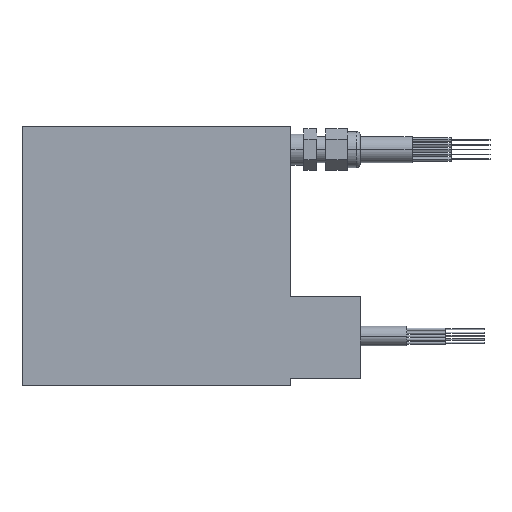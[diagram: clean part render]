
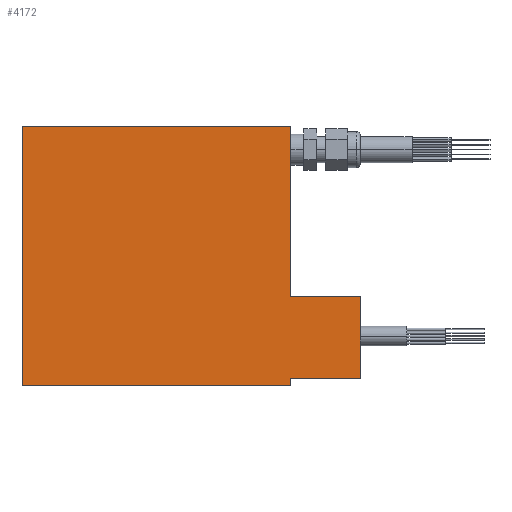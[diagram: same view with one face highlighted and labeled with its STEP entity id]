
A CAD part, front view. The second image highlights one B-rep face of the part: STEP entity #4172.
In plain terms, the highlighted planar face has unit normal (0, -1, 0).
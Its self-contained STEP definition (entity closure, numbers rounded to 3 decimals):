
#30=DIRECTION('',(0.,0.,-1.));
#31=VECTOR('',#30,100.);
#32=CARTESIAN_POINT('',(-51.75,0.,50.));
#33=LINE('',#32,#31);
#34=DIRECTION('',(1.,0.,0.));
#35=VECTOR('',#34,103.5);
#36=CARTESIAN_POINT('',(-51.75,0.,-50.));
#37=LINE('',#36,#35);
#38=DIRECTION('',(1.,0.,0.));
#39=VECTOR('',#38,26.8);
#40=CARTESIAN_POINT('',(51.75,0.,-15.61));
#41=LINE('',#40,#39);
#42=DIRECTION('',(1.,0.,0.));
#43=VECTOR('',#42,103.5);
#44=CARTESIAN_POINT('',(-51.75,0.,50.));
#45=LINE('',#44,#43);
#66=DIRECTION('',(0.,0.,-1.));
#67=VECTOR('',#66,65.61);
#68=CARTESIAN_POINT('',(51.75,0.,50.));
#69=LINE('',#68,#67);
#98=DIRECTION('',(0.,0.,-1.));
#99=VECTOR('',#98,2.84);
#100=CARTESIAN_POINT('',(51.75,0.,-47.16));
#101=LINE('',#100,#99);
#874=DIRECTION('',(1.,0.,0.));
#875=VECTOR('',#874,26.8);
#876=CARTESIAN_POINT('',(51.75,0.,-47.16));
#877=LINE('',#876,#875);
#945=DIRECTION('',(0.,0.,-1.));
#946=VECTOR('',#945,31.55);
#947=CARTESIAN_POINT('',(78.55,0.,-15.61));
#948=LINE('',#947,#946);
#3166=CARTESIAN_POINT('',(-51.75,0.,-50.));
#3168=VERTEX_POINT('',#3166);
#3180=CARTESIAN_POINT('',(-51.75,0.,50.));
#3181=VERTEX_POINT('',#3180);
#3182=CARTESIAN_POINT('',(51.75,0.,-50.));
#3184=VERTEX_POINT('',#3182);
#3196=CARTESIAN_POINT('',(51.75,0.,50.));
#3197=VERTEX_POINT('',#3196);
#3898=CARTESIAN_POINT('',(78.55,0.,-15.61));
#3899=CARTESIAN_POINT('',(78.55,0.,-47.16));
#3900=VERTEX_POINT('',#3898);
#3901=VERTEX_POINT('',#3899);
#3902=CARTESIAN_POINT('',(51.75,0.,-47.16));
#3904=VERTEX_POINT('',#3902);
#3912=CARTESIAN_POINT('',(51.75,0.,-15.61));
#3913=VERTEX_POINT('',#3912);
#4151=CARTESIAN_POINT('',(-51.75,0.,50.));
#4152=DIRECTION('',(0.,-1.,0.));
#4153=DIRECTION('',(0.,0.,-1.));
#4154=AXIS2_PLACEMENT_3D('',#4151,#4152,#4153);
#4155=PLANE('',#4154);
#4157=ORIENTED_EDGE('',*,*,#4156,.T.);
#4159=ORIENTED_EDGE('',*,*,#4158,.T.);
#4161=ORIENTED_EDGE('',*,*,#4160,.T.);
#4163=ORIENTED_EDGE('',*,*,#4162,.F.);
#4165=ORIENTED_EDGE('',*,*,#4164,.T.);
#4166=ORIENTED_EDGE('',*,*,#4142,.F.);
#4167=ORIENTED_EDGE('',*,*,#4131,.F.);
#4169=ORIENTED_EDGE('',*,*,#4168,.T.);
#4170=EDGE_LOOP('',(#4157,#4159,#4161,#4163,#4165,#4166,#4167,#4169));
#4171=FACE_OUTER_BOUND('',#4170,.F.);
#4172=ADVANCED_FACE('',(#4171),#4155,.T.);
#4131=EDGE_CURVE('',#3181,#3168,#33,.T.);
#4142=EDGE_CURVE('',#3168,#3184,#37,.T.);
#4156=EDGE_CURVE('',#3197,#3913,#69,.T.);
#4158=EDGE_CURVE('',#3913,#3900,#41,.T.);
#4160=EDGE_CURVE('',#3900,#3901,#948,.T.);
#4162=EDGE_CURVE('',#3904,#3901,#877,.T.);
#4164=EDGE_CURVE('',#3904,#3184,#101,.T.);
#4168=EDGE_CURVE('',#3181,#3197,#45,.T.);
